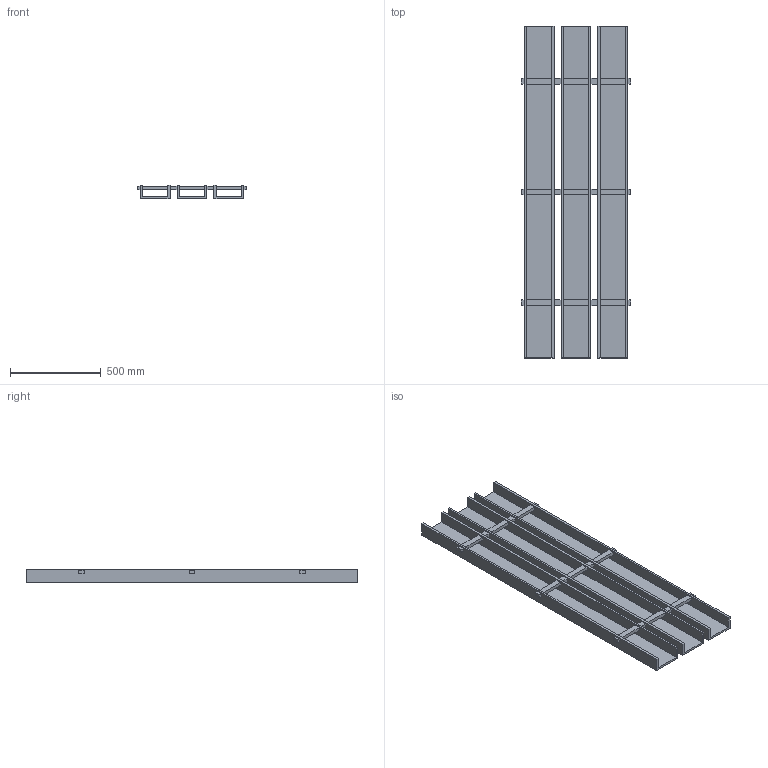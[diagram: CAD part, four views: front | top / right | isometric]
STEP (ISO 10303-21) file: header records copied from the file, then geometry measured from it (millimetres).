
FILE_DESCRIPTION(/* description */ (''),/* implementation_level */ '2;1');
FILE_NAME(/* name */ 'PET GRILLA_6.5x3_6ft',/* time_stamp */ '2024-10-15T14:22:40-05:00',/* author */ (''),/* organization */ (''),/* preprocessor_version */ 'ST-DEVELOPER v19.2',/* originating_system */ 'Rhino 8.4',/* authorisation */ '');
FILE_SCHEMA (('CONFIG_CONTROL_DESIGN'));
Length unit declared in the file: inch
Products named in the file (1): Document
Bounding box: 603.25 x 1828.8 x 76.2 mm (x, y, z)
Volume: 21309072.3 mm3; surface area: 3509267.2 mm2
Topology: 1 solids, 1 shells, 120 faces, 324 edges, 216 vertices
Faces by surface type: plane 120
Entity records: 3384 total; most frequent: CARTESIAN_POINT 986, ORIENTED_EDGE 648, EDGE_CURVE 324, B_SPLINE_CURVE_WITH_KNOTS 324, VERTEX_POINT 216, EDGE_LOOP 156, DIRECTION 124, AXIS2_PLACEMENT_3D 122
